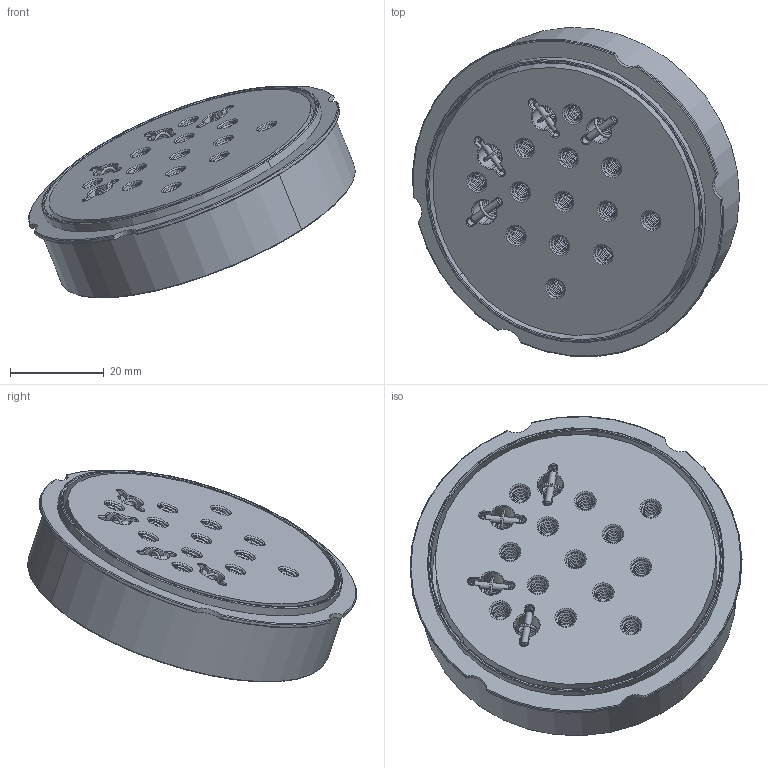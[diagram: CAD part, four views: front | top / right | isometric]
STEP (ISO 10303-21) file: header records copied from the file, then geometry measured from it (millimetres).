
FILE_DESCRIPTION((''),'2;1');
FILE_NAME('LB60-C_ASM','2020-10-21T',('Administrator'),(''),'CREO PARAMETRIC BY PTC INC, 2015290','CREO PARAMETRIC BY PTC INC, 2015290','');
FILE_SCHEMA(('CONFIG_CONTROL_DESIGN'));
Length unit declared in the file: millimetre
Products named in the file (11): LB60-C_A1; LB60-C_A2; SPACER_6X2; KCD2L-M1_A3; BALL_4; AXLE_1_6X6; M5X10_HSB; M5X10_HSB_2; SPRING_5X9; AXLE_1_5X8; LB60-C_ASM
Assembly tree (24 placements, depth 2):
  LB60-C_ASM
    LB60-C_A1
    LB60-C_A2
    SPACER_6X2
    KCD2L-M1_A3  x3
    BALL_4
    AXLE_1_6X6  x2
    M5X10_HSB  x2
    M5X10_HSB_2
    SPRING_5X9  x4
    AXLE_1_5X8  x8
Bounding box: 69.86 x 70.33 x 45.28 mm (x, y, z)
Volume: 56391.6 mm3; surface area: 26009.8 mm2
Topology: 26 solids, 26 shells, 982 faces, 2408 edges, 1480 vertices
Faces by surface type: cylinder 425, plane 204, cone 172, bspline 156, torus 16, sphere 9
Entity records: 47013 total; most frequent: CARTESIAN_POINT 29164, ORIENTED_EDGE 4050, DIRECTION 3015, EDGE_CURVE 2025, VERTEX_POINT 1279, AXIS2_PLACEMENT_3D 1096, EDGE_LOOP 850, VECTOR 823
